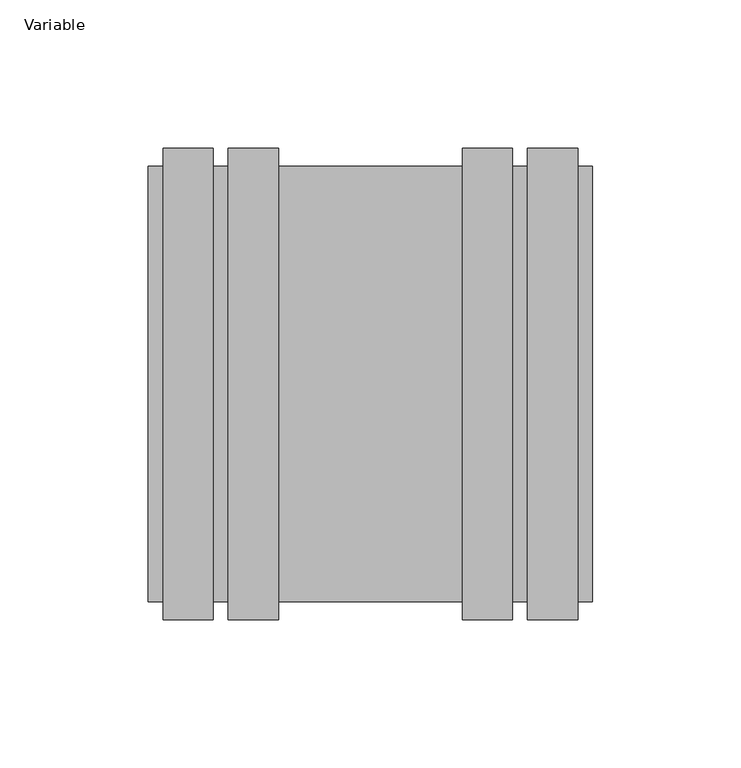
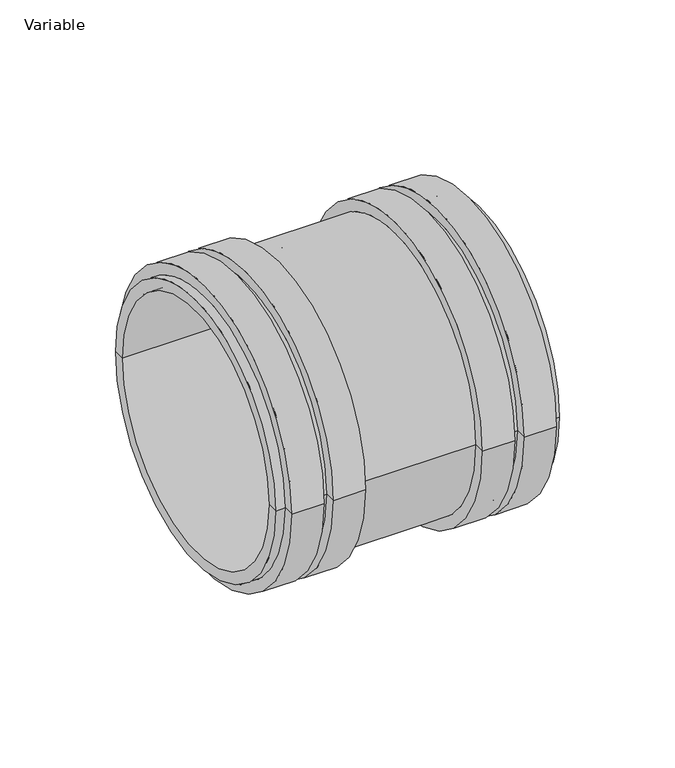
"""IFC4 building model written with IfcOpenShell, lengths in millimetres: pipe fitting geometry, AliaxisFR_Friaphon_AcousticCoupling_FR : Variable."""

from ifc_helpers import new_model, si_unit, frame, origin, place, context, project, spatial, polyline, circle_curve, source, transform, mapped, element, save
from ifc_brep_helpers import plane_surface, cylinder_surface, revolved_surface, advanced_brep


def variable_7b8b6ad0(model_context):
    return source(origin(), model_context, "Body", "AdvancedBrep", [
        advanced_brep(
        [(-7.0, -59.5, 0.0), (-7.0, 59.5, 0.0), (-7.0, 67.5, 0.0), (-7.0, -67.5, 0.0), (7.0, -59.5, 0.0), (7.0, 59.5, 0.0), (7.0, -67.5, 0.0), (7.0, 67.5, 0.0), (75.0, -67.5, 0.0), (75.0, 67.5, 0.0), (75.0, -73.5, 0.0), (75.0, 73.5, 0.0), (70.0, -73.5, 0.0), (70.0, 73.5, 0.0), (70.0, -79.5, 0.0), (70.0, 79.5, 0.0), (53.0, -79.5, 0.0), (53.0, 79.5, 0.0), (53.0, -73.5, 0.0), (53.0, 73.5, 0.0), (48.0, -73.5, 0.0), (48.0, 73.5, 0.0), (48.0, -79.5, 0.0), (48.0, 79.5, 0.0), (31.0, -79.5, 0.0), (31.0, 79.5, 0.0), (31.0, -73.5, 0.0), (31.0, 73.5, 0.0), (-31.0, -73.5, 0.0), (-31.0, 73.5, 0.0), (-31.0, -79.5, 0.0), (-31.0, 79.5, 0.0), (-48.0, -79.5, 0.0), (-48.0, 79.5, 0.0), (-48.0, -73.5, 0.0), (-48.0, 73.5, 0.0), (-53.0, -73.5, 0.0), (-53.0, 73.5, 0.0), (-53.0, -79.5, 0.0), (-53.0, 79.5, 0.0), (-70.0, -79.5, 0.0), (-70.0, 79.5, 0.0), (-70.0, -73.5, 0.0), (-70.0, 73.5, 0.0), (-75.0, -73.5, 0.0), (-75.0, 73.5, 0.0), (-75.0, -67.5, 0.0), (-75.0, 67.5, 0.0)],
        [
            (0, 1, circle_curve(frame((-7.0, 0.0, 0.0), z_axis=(1.0, 0.0, 0.0), x_axis=(0.0, 1.0, 0.0)), 59.5)),
            (1, 2),
            (2, 3, circle_curve(frame((-7.0, 0.0, 0.0), z_axis=(-1.0, 0.0, 0.0), x_axis=(0.0, 1.0, 0.0)), 67.5)),
            (3, 0),
            (1, 0, circle_curve(frame((-7.0, 0.0, 0.0), z_axis=(1.0, 0.0, 0.0), x_axis=(0.0, 1.0, 0.0)), 59.5)),
            (3, 2, circle_curve(frame((-7.0, 0.0, 0.0), z_axis=(-1.0, 0.0, 0.0), x_axis=(0.0, 1.0, 0.0)), 67.5)),
            (4, 5, circle_curve(frame((7.0, 0.0, 0.0), z_axis=(1.0, 0.0, 0.0), x_axis=(0.0, 1.0, 0.0)), 59.5)),
            (5, 1),
            (0, 4),
            (5, 4, circle_curve(frame((7.0, 0.0, 0.0), z_axis=(1.0, 0.0, 0.0), x_axis=(0.0, 1.0, 0.0)), 59.5)),
            (6, 7, circle_curve(frame((7.0, 0.0, 0.0), z_axis=(1.0, 0.0, 0.0), x_axis=(0.0, 1.0, 0.0)), 67.5)),
            (7, 5),
            (4, 6),
            (7, 6, circle_curve(frame((7.0, 0.0, 0.0), z_axis=(1.0, 0.0, 0.0), x_axis=(0.0, 1.0, 0.0)), 67.5)),
            (8, 9, circle_curve(frame((75.0, 0.0, 0.0), z_axis=(1.0, 0.0, 0.0), x_axis=(0.0, 1.0, 0.0)), 67.5)),
            (9, 7),
            (6, 8),
            (9, 8, circle_curve(frame((75.0, 0.0, 0.0), z_axis=(1.0, 0.0, 0.0), x_axis=(0.0, 1.0, 0.0)), 67.5)),
            (10, 11, circle_curve(frame((75.0, 0.0, 0.0), z_axis=(1.0, 0.0, 0.0), x_axis=(0.0, 1.0, 0.0)), 73.5)),
            (11, 9),
            (8, 10),
            (11, 10, circle_curve(frame((75.0, 0.0, 0.0), z_axis=(1.0, 0.0, 0.0), x_axis=(0.0, 1.0, 0.0)), 73.5)),
            (12, 13, circle_curve(frame((70.0, 0.0, 0.0), z_axis=(1.0, 0.0, 0.0), x_axis=(0.0, 1.0, 0.0)), 73.5)),
            (13, 11),
            (10, 12),
            (13, 12, circle_curve(frame((70.0, 0.0, 0.0), z_axis=(1.0, 0.0, 0.0), x_axis=(0.0, 1.0, 0.0)), 73.5)),
            (14, 15, circle_curve(frame((70.0, 0.0, 0.0), z_axis=(1.0, 0.0, 0.0), x_axis=(0.0, 1.0, 0.0)), 79.5)),
            (15, 13),
            (12, 14),
            (15, 14, circle_curve(frame((70.0, 0.0, 0.0), z_axis=(1.0, 0.0, 0.0), x_axis=(0.0, 1.0, 0.0)), 79.5)),
            (16, 17, circle_curve(frame((53.0, 0.0, 0.0), z_axis=(1.0, 0.0, 0.0), x_axis=(0.0, 1.0, 0.0)), 79.5)),
            (17, 15),
            (14, 16),
            (17, 16, circle_curve(frame((53.0, 0.0, 0.0), z_axis=(1.0, 0.0, 0.0), x_axis=(0.0, 1.0, 0.0)), 79.5)),
            (18, 19, circle_curve(frame((53.0, 0.0, 0.0), z_axis=(1.0, 0.0, 0.0), x_axis=(0.0, 1.0, 0.0)), 73.5)),
            (19, 17),
            (16, 18),
            (19, 18, circle_curve(frame((53.0, 0.0, 0.0), z_axis=(1.0, 0.0, 0.0), x_axis=(0.0, 1.0, 0.0)), 73.5)),
            (20, 21, circle_curve(frame((48.0, 0.0, 0.0), z_axis=(1.0, 0.0, 0.0), x_axis=(0.0, 1.0, 0.0)), 73.5)),
            (21, 19),
            (18, 20),
            (21, 20, circle_curve(frame((48.0, 0.0, 0.0), z_axis=(1.0, 0.0, 0.0), x_axis=(0.0, 1.0, 0.0)), 73.5)),
            (22, 23, circle_curve(frame((48.0, 0.0, 0.0), z_axis=(1.0, 0.0, 0.0), x_axis=(0.0, 1.0, 0.0)), 79.5)),
            (23, 21),
            (20, 22),
            (23, 22, circle_curve(frame((48.0, 0.0, 0.0), z_axis=(1.0, 0.0, 0.0), x_axis=(0.0, 1.0, 0.0)), 79.5)),
            (24, 25, circle_curve(frame((31.0, 0.0, 0.0), z_axis=(1.0, 0.0, 0.0), x_axis=(0.0, 1.0, 0.0)), 79.5)),
            (25, 23),
            (22, 24),
            (25, 24, circle_curve(frame((31.0, 0.0, 0.0), z_axis=(1.0, 0.0, 0.0), x_axis=(0.0, 1.0, 0.0)), 79.5)),
            (26, 27, circle_curve(frame((31.0, 0.0, 0.0), z_axis=(1.0, 0.0, 0.0), x_axis=(0.0, 1.0, 0.0)), 73.5)),
            (27, 25),
            (24, 26),
            (27, 26, circle_curve(frame((31.0, 0.0, 0.0), z_axis=(1.0, 0.0, 0.0), x_axis=(0.0, 1.0, 0.0)), 73.5)),
            (28, 29, circle_curve(frame((-31.0, 0.0, 0.0), z_axis=(1.0, 0.0, 0.0), x_axis=(0.0, 1.0, 0.0)), 73.5)),
            (29, 27),
            (26, 28),
            (29, 28, circle_curve(frame((-31.0, 0.0, 0.0), z_axis=(1.0, 0.0, 0.0), x_axis=(0.0, 1.0, 0.0)), 73.5)),
            (30, 31, circle_curve(frame((-31.0, 0.0, 0.0), z_axis=(1.0, 0.0, 0.0), x_axis=(0.0, 1.0, 0.0)), 79.5)),
            (31, 29),
            (28, 30),
            (31, 30, circle_curve(frame((-31.0, 0.0, 0.0), z_axis=(1.0, 0.0, 0.0), x_axis=(0.0, 1.0, 0.0)), 79.5)),
            (32, 33, circle_curve(frame((-48.0, 0.0, 0.0), z_axis=(1.0, 0.0, 0.0), x_axis=(0.0, 1.0, 0.0)), 79.5)),
            (33, 31),
            (30, 32),
            (33, 32, circle_curve(frame((-48.0, 0.0, 0.0), z_axis=(1.0, 0.0, 0.0), x_axis=(0.0, 1.0, 0.0)), 79.5)),
            (34, 35, circle_curve(frame((-48.0, 0.0, 0.0), z_axis=(1.0, 0.0, 0.0), x_axis=(0.0, 1.0, 0.0)), 73.5)),
            (35, 33),
            (32, 34),
            (35, 34, circle_curve(frame((-48.0, 0.0, 0.0), z_axis=(1.0, 0.0, 0.0), x_axis=(0.0, 1.0, 0.0)), 73.5)),
            (36, 37, circle_curve(frame((-53.0, 0.0, 0.0), z_axis=(1.0, 0.0, 0.0), x_axis=(0.0, 1.0, 0.0)), 73.5)),
            (37, 35),
            (34, 36),
            (37, 36, circle_curve(frame((-53.0, 0.0, 0.0), z_axis=(1.0, 0.0, 0.0), x_axis=(0.0, 1.0, 0.0)), 73.5)),
            (38, 39, circle_curve(frame((-53.0, 0.0, 0.0), z_axis=(1.0, 0.0, 0.0), x_axis=(0.0, 1.0, 0.0)), 79.5)),
            (39, 37),
            (36, 38),
            (39, 38, circle_curve(frame((-53.0, 0.0, 0.0), z_axis=(1.0, 0.0, 0.0), x_axis=(0.0, 1.0, 0.0)), 79.5)),
            (40, 41, circle_curve(frame((-70.0, 0.0, 0.0), z_axis=(1.0, 0.0, 0.0), x_axis=(0.0, 1.0, 0.0)), 79.5)),
            (41, 39),
            (38, 40),
            (41, 40, circle_curve(frame((-70.0, 0.0, 0.0), z_axis=(1.0, 0.0, 0.0), x_axis=(0.0, 1.0, 0.0)), 79.5)),
            (42, 43, circle_curve(frame((-70.0, 0.0, 0.0), z_axis=(1.0, 0.0, 0.0), x_axis=(0.0, 1.0, 0.0)), 73.5)),
            (43, 41),
            (40, 42),
            (43, 42, circle_curve(frame((-70.0, 0.0, 0.0), z_axis=(1.0, 0.0, 0.0), x_axis=(0.0, 1.0, 0.0)), 73.5)),
            (44, 45, circle_curve(frame((-75.0, 0.0, 0.0), z_axis=(1.0, 0.0, 0.0), x_axis=(0.0, 1.0, 0.0)), 73.5)),
            (45, 43),
            (42, 44),
            (45, 44, circle_curve(frame((-75.0, 0.0, 0.0), z_axis=(1.0, 0.0, 0.0), x_axis=(0.0, 1.0, 0.0)), 73.5)),
            (46, 47, circle_curve(frame((-75.0, 0.0, 0.0), z_axis=(1.0, 0.0, 0.0), x_axis=(0.0, 1.0, 0.0)), 67.5)),
            (47, 45),
            (44, 46),
            (47, 46, circle_curve(frame((-75.0, 0.0, 0.0), z_axis=(1.0, 0.0, 0.0), x_axis=(0.0, 1.0, 0.0)), 67.5)),
            (2, 47),
            (46, 3),
        ],
        [
            plane_surface(frame((-7.0, 0.0, 0.0), z_axis=(-1.0, 0.0, 0.0), x_axis=(0.0, 1.0, 0.0))),
            revolved_surface(polyline([(-7.0, 59.5, 0.0), (7.0, 59.5, 0.0)]), (2023.0, 0.0, 0.0), (-1.0, 0.0, 0.0)),
            plane_surface(frame((7.0, 0.0, 0.0), z_axis=(1.0, 0.0, 0.0), x_axis=(0.0, 1.0, 0.0))),
            revolved_surface(polyline([(7.0, 67.5, 0.0), (75.0, 67.5, 0.0)]), (2023.0, 0.0, 0.0), (-1.0, 0.0, 0.0)),
            plane_surface(frame((75.0, 0.0, 0.0), z_axis=(1.0, 0.0, 0.0), x_axis=(0.0, 1.0, 0.0))),
            cylinder_surface(frame((2023.0, 0.0, 0.0), z_axis=(-1.0, 0.0, 0.0), x_axis=(0.0, 1.0, 0.0)), 73.5),
            plane_surface(frame((70.0, 0.0, 0.0), z_axis=(1.0, 0.0, 0.0), x_axis=(0.0, 1.0, 0.0))),
            cylinder_surface(frame((2023.0, 0.0, 0.0), z_axis=(-1.0, 0.0, 0.0), x_axis=(0.0, 1.0, 0.0)), 79.5),
            plane_surface(frame((53.0, 0.0, 0.0), z_axis=(-1.0, 0.0, 0.0), x_axis=(0.0, 1.0, 0.0))),
            plane_surface(frame((48.0, 0.0, 0.0), z_axis=(1.0, 0.0, 0.0), x_axis=(0.0, 1.0, 0.0))),
            plane_surface(frame((31.0, 0.0, 0.0), z_axis=(-1.0, 0.0, 0.0), x_axis=(0.0, 1.0, 0.0))),
            plane_surface(frame((-31.0, 0.0, 0.0), z_axis=(1.0, 0.0, 0.0), x_axis=(0.0, 1.0, 0.0))),
            plane_surface(frame((-48.0, 0.0, 0.0), z_axis=(-1.0, 0.0, 0.0), x_axis=(0.0, 1.0, 0.0))),
            plane_surface(frame((-53.0, 0.0, 0.0), z_axis=(1.0, 0.0, 0.0), x_axis=(0.0, 1.0, 0.0))),
            plane_surface(frame((-70.0, 0.0, 0.0), z_axis=(-1.0, 0.0, 0.0), x_axis=(0.0, 1.0, 0.0))),
            plane_surface(frame((-75.0, 0.0, 0.0), z_axis=(-1.0, 0.0, 0.0), x_axis=(0.0, 1.0, 0.0))),
            revolved_surface(polyline([(-75.0, 67.5, 0.0), (-7.0, 67.5, 0.0)]), (2023.0, 0.0, 0.0), (-1.0, 0.0, 0.0)),
        ],
        [
            (0, [[1, 2, 3, 4]]),
            (0, [[5, -4, 6, -2]]),
            (1, [[7, 8, -1, 9]]),
            (1, [[10, -9, -5, -8]]),
            (2, [[11, 12, -7, 13]]),
            (2, [[14, -13, -10, -12]]),
            (3, [[15, 16, -11, 17]]),
            (3, [[18, -17, -14, -16]]),
            (4, [[19, 20, -15, 21]]),
            (4, [[22, -21, -18, -20]]),
            (5, [[23, 24, -19, 25]]),
            (5, [[26, -25, -22, -24]]),
            (6, [[27, 28, -23, 29]]),
            (6, [[30, -29, -26, -28]]),
            (7, [[31, 32, -27, 33]]),
            (7, [[34, -33, -30, -32]]),
            (8, [[35, 36, -31, 37]]),
            (8, [[38, -37, -34, -36]]),
            (5, [[39, 40, -35, 41]]),
            (5, [[42, -41, -38, -40]]),
            (9, [[43, 44, -39, 45]]),
            (9, [[46, -45, -42, -44]]),
            (7, [[47, 48, -43, 49]]),
            (7, [[50, -49, -46, -48]]),
            (10, [[51, 52, -47, 53]]),
            (10, [[54, -53, -50, -52]]),
            (5, [[55, 56, -51, 57]]),
            (5, [[58, -57, -54, -56]]),
            (11, [[59, 60, -55, 61]]),
            (11, [[62, -61, -58, -60]]),
            (7, [[63, 64, -59, 65]]),
            (7, [[66, -65, -62, -64]]),
            (12, [[67, 68, -63, 69]]),
            (12, [[70, -69, -66, -68]]),
            (5, [[71, 72, -67, 73]]),
            (5, [[74, -73, -70, -72]]),
            (13, [[75, 76, -71, 77]]),
            (13, [[78, -77, -74, -76]]),
            (7, [[79, 80, -75, 81]]),
            (7, [[82, -81, -78, -80]]),
            (14, [[83, 84, -79, 85]]),
            (14, [[86, -85, -82, -84]]),
            (5, [[87, 88, -83, 89]]),
            (5, [[90, -89, -86, -88]]),
            (15, [[91, 92, -87, 93]]),
            (15, [[94, -93, -90, -92]]),
            (16, [[-3, 95, -91, 96]]),
            (16, [[-6, -96, -94, -95]]),
        ],
    ),
    ])


if __name__ == "__main__":
    model = new_model("IFC4")
    model_context = context("Model", 3, world=origin())
    ifc_project = project(units=[si_unit("LENGTHUNIT", "METRE", prefix="MILLI")], contexts=[model_context])
    site = spatial("IfcSite", under=ifc_project)
    building = spatial("IfcBuilding", under=site)
    placement = place(None, origin())
    variable_shape = variable_7b8b6ad0(model_context)
    element("IfcPipeFitting", 1, ObjectType="AliaxisFR_Friaphon_AcousticCoupling_FR : Variable", at=placement, inside=building, context=model_context, shape_type="MappedRepresentation", body=[
        mapped(variable_shape, transform((0.0, 0.0, 0.0), x_axis=(1.0, 0.0, 0.0), y_axis=(0.0, 1.0, 0.0), z_axis=(0.0, 0.0, 1.0))),
    ])
    save(model, "model.ifc")
